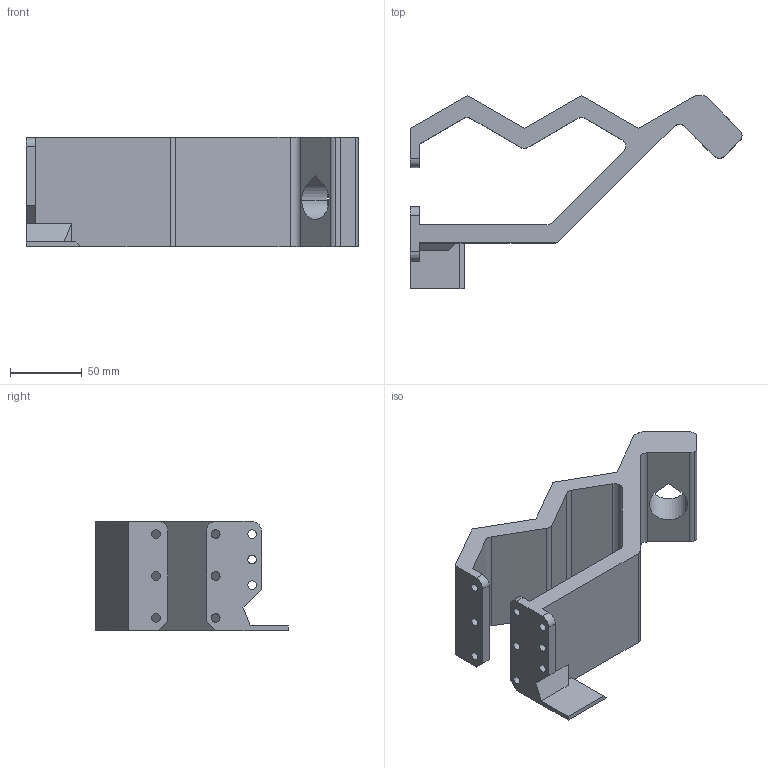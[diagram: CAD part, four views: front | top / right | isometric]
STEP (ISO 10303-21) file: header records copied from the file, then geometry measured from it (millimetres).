
FILE_DESCRIPTION(/* description */ ('STEP AP242 Edition 2','CAx-IF Rec.Pracs.---Representation and Presentation of Product Manufacturing Information (PMI)---4.0---2014-10-13','CAx-IF Rec.Pracs.---3D Tessellated Geometry---0.4---2014-09-14','2;1','CAx-IF Rec.Pracs.---User Defined Attributes---1.5---2016-08-15'),/* implementation_level */ '2;1');
FILE_NAME(/* name */ 'Goal - Goal Split Right',/* time_stamp */ '2026-05-24T05:41:42Z',/* author */ (''),/* organization */ (''),/* preprocessor_version */ 'ST-DEVELOPER v20',/* originating_system */ 'ONSHAPE BY PTC INC, 1.215',/* authorisation */ ' ');
FILE_SCHEMA (('AP242_MANAGED_MODEL_BASED_3D_ENGINEERING_MIM_LF { 1 0 10303 442 3 1 4 }'));
Length unit declared in the file: metre
Products named in the file (1): Goal Split Right
Bounding box: 231.91 x 134.75 x 76.2 mm (x, y, z)
Volume: 483351.3 mm3; surface area: 93507.4 mm2
Topology: 1 solids, 1 shells, 75 faces, 220 edges, 147 vertices
Faces by surface type: plane 39, cylinder 36
Entity records: 2578 total; most frequent: DIRECTION 446, CARTESIAN_POINT 443, ORIENTED_EDGE 440, EDGE_CURVE 220, AXIS2_PLACEMENT_3D 150, VERTEX_POINT 147, LINE 146, VECTOR 146
